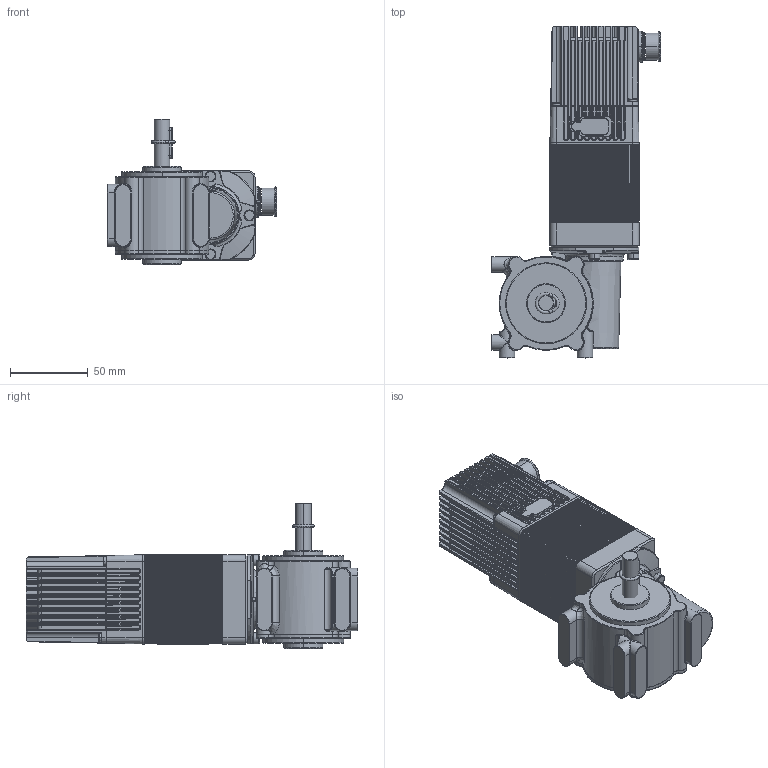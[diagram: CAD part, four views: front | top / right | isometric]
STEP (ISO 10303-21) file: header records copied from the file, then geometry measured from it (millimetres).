
FILE_DESCRIPTION((''),'2;1');
FILE_NAME('ENV_SIMP_STEP_TEMP','2012-10-24T',('VALJBL1'),('CROUZET-AUTOMATISMES'),'PRO/ENGINEER BY PARAMETRIC TECHNOLOGY CORPORATION, 2012090','PRO/ENGINEER BY PARAMETRIC TECHNOLOGY CORPORATION, 2012090','');
FILE_SCHEMA(('CONFIG_CONTROL_DESIGN'));
Products named in the file (1): ENV_SIMP_STEP_TEMP
Bounding box: 108.35 x 212.75 x 93 mm (x, y, z)
Surface area: 125901.9 mm2 (no closed solid volume)
Topology: 0 solids, 210 shells, 3560 faces, 10495 edges, 6952 vertices
Faces by surface type: cylinder 1647, plane 1457, torus 155, bspline 150, sphere 125, cone 26
Entity records: 128025 total; most frequent: CARTESIAN_POINT 38447, DIRECTION 18441, ORIENTED_EDGE 16714, EDGE_CURVE 10495, VERTEX_POINT 6952, AXIS2_PLACEMENT_3D 6231, VECTOR 5979, LINE 5979
